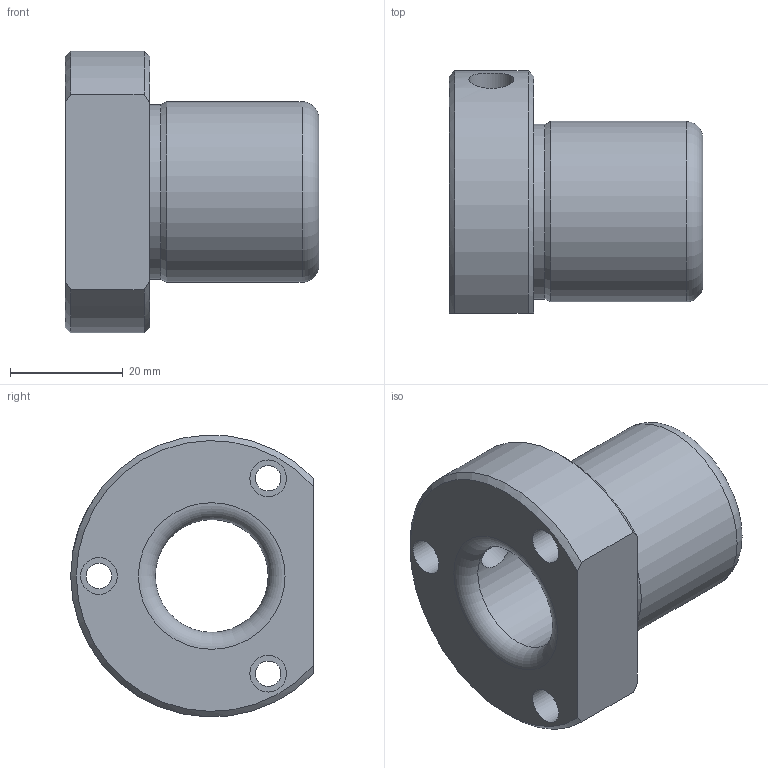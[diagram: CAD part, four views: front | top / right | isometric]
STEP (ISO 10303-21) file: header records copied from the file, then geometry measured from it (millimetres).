
FILE_DESCRIPTION(/* description */ ('Impex Ready, www.impex-ready.pl'),/* implementation_level */ '2;1');
FILE_NAME(/* name */ 'C:\Users\VIKKY\Nextcloud\SM\projekt 10 - części na stronę internetową\Pliki_3D_new\274 Tuleje B5A\274 B5A_STEP\B5A20-2.ipt.step',/* time_stamp */ '2021-12-20T17:21:40+01:00',/* author */ ('SM'),/* organization */ (''),/* preprocessor_version */ 'ST-DEVELOPER v18.1',/* originating_system */ 'Autodesk Inventor 2021',/* authorisation */ '');
FILE_SCHEMA (('AUTOMOTIVE_DESIGN { 1 0 10303 214 3 1 1 }'));
Length unit declared in the file: millimetre
Products named in the file (1): B5A20-2
Bounding box: 45 x 43 x 49.95 mm (x, y, z)
Volume: 34535.5 mm3; surface area: 11641.3 mm2
Topology: 1 solids, 1 shells, 22 faces, 51 edges, 34 vertices
Faces by surface type: cylinder 11, plane 6, cone 3, torus 2
Full cylindrical faces by diameter (mm): 4.5 x3, 6.5 x3, 8 x1, 20 x1, 31 x1, 32 x1
Entity records: 801 total; most frequent: CARTESIAN_POINT 185, DIRECTION 117, ORIENTED_EDGE 102, EDGE_CURVE 51, AXIS2_PLACEMENT_3D 51, EDGE_LOOP 35, VERTEX_POINT 34, CIRCLE 28
